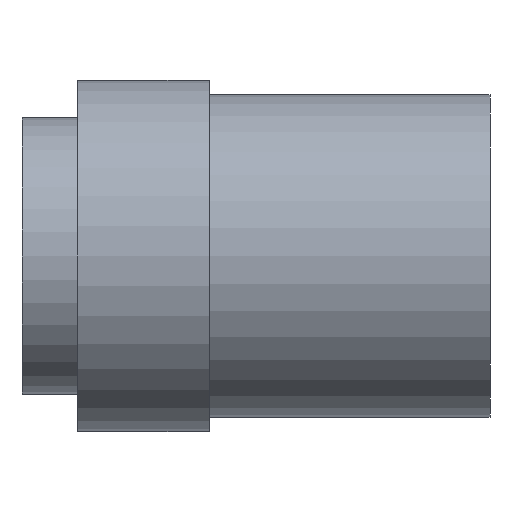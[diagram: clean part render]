
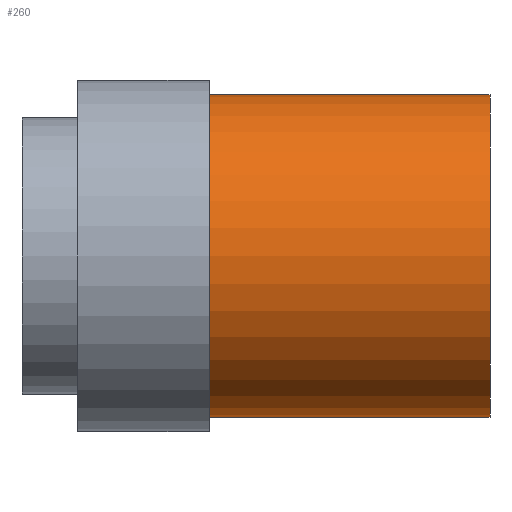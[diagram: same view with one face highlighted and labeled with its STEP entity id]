
A CAD part, left-side view. The second image highlights one B-rep face of the part: STEP entity #260.
In plain terms, the highlighted cylindrical face has radius 8.763 mm (diameter 17.526 mm), a partial arc.
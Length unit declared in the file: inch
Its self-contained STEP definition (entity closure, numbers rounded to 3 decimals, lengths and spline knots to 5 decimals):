
#10 = LINE ( 'NONE', #1451, #724 ) ;
#29 = ORIENTED_EDGE ( 'NONE', *, *, #1724, .F. ) ;
#105 = VERTEX_POINT ( 'NONE', #908 ) ;
#196 = EDGE_CURVE ( 'NONE', #1071, #1035, #312, .T. ) ;
#256 = CARTESIAN_POINT ( 'NONE',  ( 0., 0.225, -0.345 ) ) ;
#260 = ADVANCED_FACE ( 'NONE', ( #661 ), #1831, .T. ) ;
#312 = CIRCLE ( 'NONE', #1413, 0.345 ) ;
#343 = CARTESIAN_POINT ( 'NONE',  ( 0., 0.225, 0. ) ) ;
#361 = CARTESIAN_POINT ( 'NONE',  ( 0., 0.225, 0. ) ) ;
#365 = ORIENTED_EDGE ( 'NONE', *, *, #1346, .T. ) ;
#366 = DIRECTION ( 'NONE',  ( 0., 0., -1. ) ) ;
#449 = DIRECTION ( 'NONE',  ( 0., -1., 0. ) ) ;
#466 = VECTOR ( 'NONE', #449, 39.37008 ) ;
#661 = FACE_OUTER_BOUND ( 'NONE', #1802, .T. ) ;
#724 = VECTOR ( 'NONE', #1472, 39.37008 ) ;
#778 = DIRECTION ( 'NONE',  ( 0., -1., 0. ) ) ;
#821 = AXIS2_PLACEMENT_3D ( 'NONE', #1675, #1245, #366 ) ;
#908 = CARTESIAN_POINT ( 'NONE',  ( 0., -0.375, 0.345 ) ) ;
#912 = LINE ( 'NONE', #1501, #466 ) ;
#930 = EDGE_CURVE ( 'NONE', #105, #1248, #1473, .T. ) ;
#1000 = CARTESIAN_POINT ( 'NONE',  ( 0., 0.225, 0.345 ) ) ;
#1035 = VERTEX_POINT ( 'NONE', #256 ) ;
#1071 = VERTEX_POINT ( 'NONE', #1000 ) ;
#1112 = DIRECTION ( 'NONE',  ( 0., -1., 0. ) ) ;
#1239 = DIRECTION ( 'NONE',  ( 0., 0., -1. ) ) ;
#1245 = DIRECTION ( 'NONE',  ( 0., -1., 0. ) ) ;
#1247 = DIRECTION ( 'NONE',  ( 0., 0., -1. ) ) ;
#1248 = VERTEX_POINT ( 'NONE', #1719 ) ;
#1346 = EDGE_CURVE ( 'NONE', #1035, #1248, #10, .T. ) ;
#1371 = ORIENTED_EDGE ( 'NONE', *, *, #930, .F. ) ;
#1378 = AXIS2_PLACEMENT_3D ( 'NONE', #343, #778, #1247 ) ;
#1413 = AXIS2_PLACEMENT_3D ( 'NONE', #361, #1112, #1239 ) ;
#1451 = CARTESIAN_POINT ( 'NONE',  ( 0., 0.225, -0.345 ) ) ;
#1472 = DIRECTION ( 'NONE',  ( 0., -1., 0. ) ) ;
#1473 = CIRCLE ( 'NONE', #821, 0.345 ) ;
#1501 = CARTESIAN_POINT ( 'NONE',  ( 0., 0.225, 0.345 ) ) ;
#1675 = CARTESIAN_POINT ( 'NONE',  ( 0., -0.375, 0. ) ) ;
#1719 = CARTESIAN_POINT ( 'NONE',  ( 0., -0.375, -0.345 ) ) ;
#1724 = EDGE_CURVE ( 'NONE', #1071, #105, #912, .T. ) ;
#1736 = ORIENTED_EDGE ( 'NONE', *, *, #196, .T. ) ;
#1802 = EDGE_LOOP ( 'NONE', ( #29, #1736, #365, #1371 ) ) ;
#1831 = CYLINDRICAL_SURFACE ( 'NONE', #1378, 0.345 ) ;
